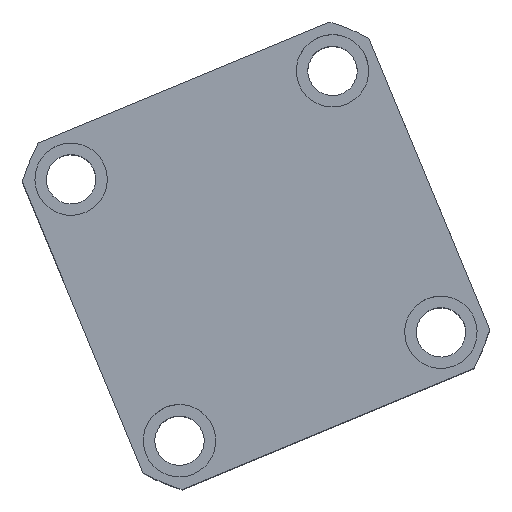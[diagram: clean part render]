
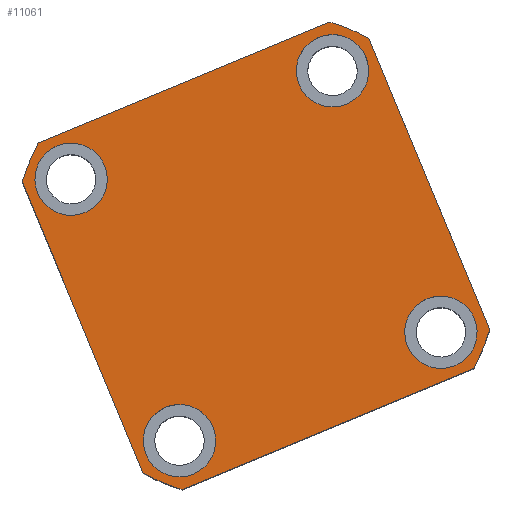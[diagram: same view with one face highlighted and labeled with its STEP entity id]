
A CAD part, top view. The second image highlights one B-rep face of the part: STEP entity #11061.
In plain terms, the highlighted planar face has unit normal (0, 0, 1) as drawn and (0, 0, -1) by its records, which use the part's own axes.
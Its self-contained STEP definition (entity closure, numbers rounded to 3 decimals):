
#63 = LINE ( 'NONE', #13909, #16353 ) ;
#231 = CIRCLE ( 'NONE', #10552, 74.5 ) ;
#308 = FACE_BOUND ( 'NONE', #12326, .T. ) ;
#349 = EDGE_CURVE ( 'NONE', #7787, #6349, #13244, .T. ) ;
#498 = ORIENTED_EDGE ( 'NONE', *, *, #785, .F. ) ;
#636 = ORIENTED_EDGE ( 'NONE', *, *, #7777, .F. ) ;
#785 = EDGE_CURVE ( 'NONE', #8603, #19032, #3039, .T. ) ;
#911 = CARTESIAN_POINT ( 'NONE',  ( 32., 43., 0. ) ) ;
#950 = EDGE_CURVE ( 'NONE', #15273, #19758, #6685, .T. ) ;
#1054 = CARTESIAN_POINT ( 'NONE',  ( -54., 43., 0. ) ) ;
#1112 = DIRECTION ( 'NONE',  ( 0., 0., -1. ) ) ;
#1271 = CIRCLE ( 'NONE', #3967, 74.5 ) ;
#1420 = DIRECTION ( 'NONE',  ( 1., 0., 0. ) ) ;
#1888 = EDGE_CURVE ( 'NONE', #15682, #7073, #3532, .T. ) ;
#2374 = ORIENTED_EDGE ( 'NONE', *, *, #6610, .F. ) ;
#2377 = AXIS2_PLACEMENT_3D ( 'NONE', #13111, #3723, #14688 ) ;
#2645 = EDGE_CURVE ( 'NONE', #19758, #15273, #7359, .T. ) ;
#2715 = CARTESIAN_POINT ( 'NONE',  ( -47.971, -57., 0. ) ) ;
#2942 = CARTESIAN_POINT ( 'NONE',  ( 43., 43., 0. ) ) ;
#3039 = CIRCLE ( 'NONE', #20458, 11. ) ;
#3303 = LINE ( 'NONE', #20236, #6924 ) ;
#3507 = CARTESIAN_POINT ( 'NONE',  ( 57., -47.971, 0. ) ) ;
#3515 = ORIENTED_EDGE ( 'NONE', *, *, #7368, .F. ) ;
#3532 = CIRCLE ( 'NONE', #12938, 74.5 ) ;
#3662 = ORIENTED_EDGE ( 'NONE', *, *, #16081, .F. ) ;
#3723 = DIRECTION ( 'NONE',  ( 0., 0., -1. ) ) ;
#3857 = AXIS2_PLACEMENT_3D ( 'NONE', #7416, #18479, #8989 ) ;
#3967 = AXIS2_PLACEMENT_3D ( 'NONE', #14960, #5554, #16556 ) ;
#4055 = VECTOR ( 'NONE', #16663, 1000. ) ;
#4203 = VERTEX_POINT ( 'NONE', #3507 ) ;
#4499 = ORIENTED_EDGE ( 'NONE', *, *, #7418, .F. ) ;
#4549 = DIRECTION ( 'NONE',  ( -1., 0., 0. ) ) ;
#4553 = FACE_BOUND ( 'NONE', #17029, .T. ) ;
#4616 = CARTESIAN_POINT ( 'NONE',  ( -43., 43., 0. ) ) ;
#4803 = CIRCLE ( 'NONE', #2377, 11. ) ;
#5116 = CARTESIAN_POINT ( 'NONE',  ( 0., 0., 0. ) ) ;
#5397 = CARTESIAN_POINT ( 'NONE',  ( -47.971, 57., 0. ) ) ;
#5554 = DIRECTION ( 'NONE',  ( 0., 0., 1. ) ) ;
#5592 = EDGE_CURVE ( 'NONE', #6349, #15682, #15355, .T. ) ;
#5793 = ORIENTED_EDGE ( 'NONE', *, *, #5592, .F. ) ;
#6134 = DIRECTION ( 'NONE',  ( -1., 0., 0. ) ) ;
#6205 = CIRCLE ( 'NONE', #16191, 11. ) ;
#6349 = VERTEX_POINT ( 'NONE', #16686 ) ;
#6363 = CARTESIAN_POINT ( 'NONE',  ( 54., 43., 0. ) ) ;
#6610 = EDGE_CURVE ( 'NONE', #7073, #17977, #63, .T. ) ;
#6629 = DIRECTION ( 'NONE',  ( 1., 0., 0. ) ) ;
#6685 = CIRCLE ( 'NONE', #17933, 11. ) ;
#6773 = CARTESIAN_POINT ( 'NONE',  ( -54., -43., 0. ) ) ;
#6924 = VECTOR ( 'NONE', #1420, 1000. ) ;
#7010 = ORIENTED_EDGE ( 'NONE', *, *, #7189, .F. ) ;
#7073 = VERTEX_POINT ( 'NONE', #13428 ) ;
#7189 = EDGE_CURVE ( 'NONE', #4203, #7787, #16580, .T. ) ;
#7359 = CIRCLE ( 'NONE', #19931, 11. ) ;
#7368 = EDGE_CURVE ( 'NONE', #9600, #16159, #6205, .T. ) ;
#7416 = CARTESIAN_POINT ( 'NONE',  ( 0., 0., 0. ) ) ;
#7418 = EDGE_CURVE ( 'NONE', #10963, #7515, #15582, .T. ) ;
#7515 = VERTEX_POINT ( 'NONE', #15720 ) ;
#7777 = EDGE_CURVE ( 'NONE', #19308, #13007, #3303, .T. ) ;
#7787 = VERTEX_POINT ( 'NONE', #12433 ) ;
#7855 = ORIENTED_EDGE ( 'NONE', *, *, #950, .F. ) ;
#7924 = DIRECTION ( 'NONE',  ( -1., 0., 0. ) ) ;
#8603 = VERTEX_POINT ( 'NONE', #20469 ) ;
#8637 = FACE_BOUND ( 'NONE', #9075, .T. ) ;
#8695 = ORIENTED_EDGE ( 'NONE', *, *, #349, .F. ) ;
#8989 = DIRECTION ( 'NONE',  ( 1., 0., 0. ) ) ;
#9075 = EDGE_LOOP ( 'NONE', ( #498, #14052 ) ) ;
#9135 = FACE_BOUND ( 'NONE', #11856, .T. ) ;
#9271 = CARTESIAN_POINT ( 'NONE',  ( -32., -43., 0. ) ) ;
#9286 = CARTESIAN_POINT ( 'NONE',  ( -43., 43., 0. ) ) ;
#9592 = EDGE_LOOP ( 'NONE', ( #8695, #7010, #11700, #636, #3662, #2374, #11216, #5793 ) ) ;
#9600 = VERTEX_POINT ( 'NONE', #6363 ) ;
#9839 = CARTESIAN_POINT ( 'NONE',  ( 47.971, -57., 0. ) ) ;
#10159 = DIRECTION ( 'NONE',  ( -1., 0., 0. ) ) ;
#10228 = DIRECTION ( 'NONE',  ( 0., 0., -1. ) ) ;
#10294 = CARTESIAN_POINT ( 'NONE',  ( -43., -43., 0. ) ) ;
#10517 = CARTESIAN_POINT ( 'NONE',  ( 43., 43., 0. ) ) ;
#10526 = EDGE_CURVE ( 'NONE', #7515, #10963, #12125, .T. ) ;
#10552 = AXIS2_PLACEMENT_3D ( 'NONE', #5116, #16091, #6629 ) ;
#10901 = DIRECTION ( 'NONE',  ( -1., 0., 0. ) ) ;
#10935 = CARTESIAN_POINT ( 'NONE',  ( -57., 57., 0. ) ) ;
#10963 = VERTEX_POINT ( 'NONE', #1054 ) ;
#11061 = ADVANCED_FACE ( 'NONE', ( #308, #8637, #9135, #4553, #16587 ), #15306, .F. ) ;
#11063 = CARTESIAN_POINT ( 'NONE',  ( 0., 0., 0. ) ) ;
#11069 = ORIENTED_EDGE ( 'NONE', *, *, #2645, .F. ) ;
#11111 = DIRECTION ( 'NONE',  ( 0., 0., 1. ) ) ;
#11143 = DIRECTION ( 'NONE',  ( 1., 0., 0. ) ) ;
#11216 = ORIENTED_EDGE ( 'NONE', *, *, #1888, .F. ) ;
#11657 = EDGE_CURVE ( 'NONE', #19032, #8603, #4803, .T. ) ;
#11700 = ORIENTED_EDGE ( 'NONE', *, *, #18977, .F. ) ;
#11852 = CIRCLE ( 'NONE', #12353, 11. ) ;
#11856 = EDGE_LOOP ( 'NONE', ( #18740, #3515 ) ) ;
#11936 = ORIENTED_EDGE ( 'NONE', *, *, #10526, .F. ) ;
#11955 = AXIS2_PLACEMENT_3D ( 'NONE', #9286, #20369, #10901 ) ;
#12112 = DIRECTION ( 'NONE',  ( -1., 0., 0. ) ) ;
#12125 = CIRCLE ( 'NONE', #11955, 11. ) ;
#12326 = EDGE_LOOP ( 'NONE', ( #11069, #7855 ) ) ;
#12353 = AXIS2_PLACEMENT_3D ( 'NONE', #10517, #1112, #12112 ) ;
#12433 = CARTESIAN_POINT ( 'NONE',  ( 57., 47.971, 0. ) ) ;
#12918 = CARTESIAN_POINT ( 'NONE',  ( 54., -43., 0. ) ) ;
#12938 = AXIS2_PLACEMENT_3D ( 'NONE', #18847, #18950, #18851 ) ;
#13007 = VERTEX_POINT ( 'NONE', #9839 ) ;
#13057 = AXIS2_PLACEMENT_3D ( 'NONE', #11063, #11111, #11143 ) ;
#13111 = CARTESIAN_POINT ( 'NONE',  ( 43., -43., 0. ) ) ;
#13146 = CARTESIAN_POINT ( 'NONE',  ( 43., -43., 0. ) ) ;
#13151 = DIRECTION ( 'NONE',  ( 0., 0., -1. ) ) ;
#13244 = CIRCLE ( 'NONE', #13057, 74.5 ) ;
#13428 = CARTESIAN_POINT ( 'NONE',  ( -57., 47.971, 0. ) ) ;
#13909 = CARTESIAN_POINT ( 'NONE',  ( -57., 57., 0. ) ) ;
#13919 = DIRECTION ( 'NONE',  ( 0., 0., -1. ) ) ;
#14052 = ORIENTED_EDGE ( 'NONE', *, *, #11657, .F. ) ;
#14688 = DIRECTION ( 'NONE',  ( -1., 0., 0. ) ) ;
#14723 = DIRECTION ( 'NONE',  ( -1., 0., 0. ) ) ;
#14816 = DIRECTION ( 'NONE',  ( 0., 0., -1. ) ) ;
#14878 = CARTESIAN_POINT ( 'NONE',  ( -43., -43., 0. ) ) ;
#14960 = CARTESIAN_POINT ( 'NONE',  ( 0., 0., 0. ) ) ;
#15273 = VERTEX_POINT ( 'NONE', #9271 ) ;
#15306 = PLANE ( 'NONE',  #3857 ) ;
#15332 = CARTESIAN_POINT ( 'NONE',  ( 57., 57., 0. ) ) ;
#15355 = LINE ( 'NONE', #10935, #19086 ) ;
#15582 = CIRCLE ( 'NONE', #17243, 11. ) ;
#15584 = DIRECTION ( 'NONE',  ( 0., 0., -1. ) ) ;
#15682 = VERTEX_POINT ( 'NONE', #5397 ) ;
#15716 = DIRECTION ( 'NONE',  ( -1., 0., 0. ) ) ;
#15720 = CARTESIAN_POINT ( 'NONE',  ( -32., 43., 0. ) ) ;
#16081 = EDGE_CURVE ( 'NONE', #17977, #19308, #1271, .T. ) ;
#16091 = DIRECTION ( 'NONE',  ( 0., 0., 1. ) ) ;
#16159 = VERTEX_POINT ( 'NONE', #911 ) ;
#16191 = AXIS2_PLACEMENT_3D ( 'NONE', #2942, #13919, #4549 ) ;
#16253 = EDGE_CURVE ( 'NONE', #16159, #9600, #11852, .T. ) ;
#16353 = VECTOR ( 'NONE', #17094, 1000. ) ;
#16556 = DIRECTION ( 'NONE',  ( 1., 0., 0. ) ) ;
#16580 = LINE ( 'NONE', #15332, #4055 ) ;
#16587 = FACE_OUTER_BOUND ( 'NONE', #9592, .T. ) ;
#16663 = DIRECTION ( 'NONE',  ( 0., 1., 0. ) ) ;
#16686 = CARTESIAN_POINT ( 'NONE',  ( 47.971, 57., 0. ) ) ;
#17029 = EDGE_LOOP ( 'NONE', ( #4499, #11936 ) ) ;
#17094 = DIRECTION ( 'NONE',  ( 0., -1., 0. ) ) ;
#17243 = AXIS2_PLACEMENT_3D ( 'NONE', #4616, #15584, #6134 ) ;
#17933 = AXIS2_PLACEMENT_3D ( 'NONE', #14878, #14816, #14723 ) ;
#17977 = VERTEX_POINT ( 'NONE', #18616 ) ;
#18479 = DIRECTION ( 'NONE',  ( 0., 0., 1. ) ) ;
#18616 = CARTESIAN_POINT ( 'NONE',  ( -57., -47.971, 0. ) ) ;
#18740 = ORIENTED_EDGE ( 'NONE', *, *, #16253, .F. ) ;
#18847 = CARTESIAN_POINT ( 'NONE',  ( 0., 0., 0. ) ) ;
#18851 = DIRECTION ( 'NONE',  ( 1., 0., 0. ) ) ;
#18950 = DIRECTION ( 'NONE',  ( 0., 0., 1. ) ) ;
#18977 = EDGE_CURVE ( 'NONE', #13007, #4203, #231, .T. ) ;
#19032 = VERTEX_POINT ( 'NONE', #12918 ) ;
#19086 = VECTOR ( 'NONE', #15716, 1000. ) ;
#19308 = VERTEX_POINT ( 'NONE', #2715 ) ;
#19758 = VERTEX_POINT ( 'NONE', #6773 ) ;
#19931 = AXIS2_PLACEMENT_3D ( 'NONE', #10294, #10228, #10159 ) ;
#20236 = CARTESIAN_POINT ( 'NONE',  ( -57., -57., 0. ) ) ;
#20369 = DIRECTION ( 'NONE',  ( 0., 0., -1. ) ) ;
#20458 = AXIS2_PLACEMENT_3D ( 'NONE', #13146, #13151, #7924 ) ;
#20469 = CARTESIAN_POINT ( 'NONE',  ( 32., -43., 0. ) ) ;
